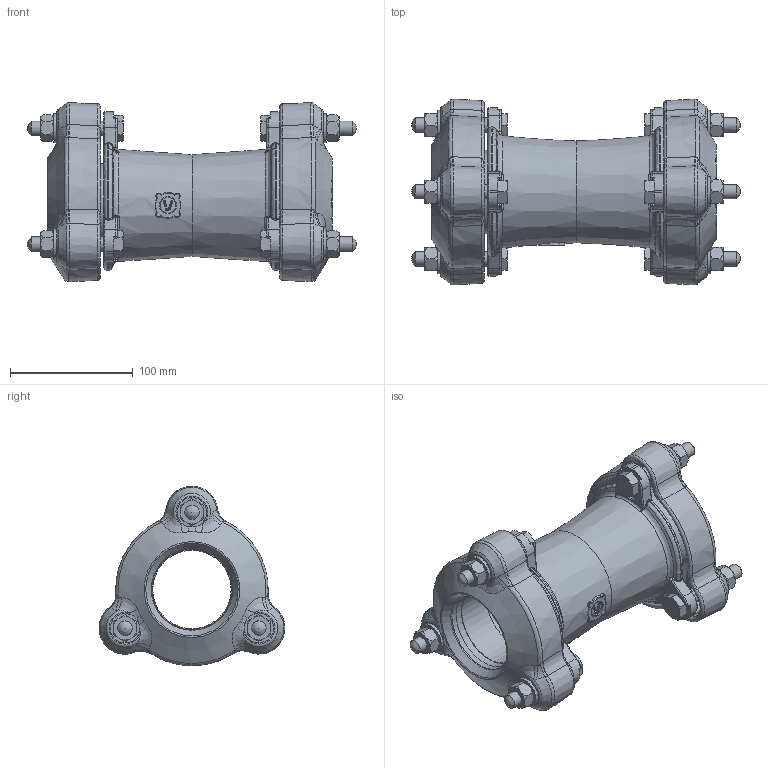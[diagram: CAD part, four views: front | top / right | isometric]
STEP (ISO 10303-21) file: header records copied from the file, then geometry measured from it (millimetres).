
FILE_DESCRIPTION((''),'2;1');
FILE_NAME('P:\Fastrack\54361_VIKING JOHNSON 3D\ULTRAGRIP\Component Parts\Components Built up\Coupling Assembly\40MM-UltraGrip-Coupling-Assembly.stp','2012-05-22T12:27:40',('dcole'),(''),'Autodesk Inventor 2008','Autodesk Inventor 2008','');
FILE_SCHEMA(('AUTOMOTIVE_DESIGN { 1 0 10303 214 1 1 1 1 }'));
Length unit declared in the file: millimetre
Products named in the file (1): 40MM-UltraGrip-Coupling-Assembly
Bounding box: 268 x 151.42 x 146.15 mm (x, y, z)
Volume: 741519.2 mm3; surface area: 263606.5 mm2
Topology: 1 solids, 1 shells, 1123 faces, 2995 edges, 1885 vertices
Faces by surface type: bspline 272, plane 271, cone 221, cylinder 196, torus 139, sphere 24
Full cylindrical faces by diameter (mm): 11.75 x6, 12 x6, 13 x1, 14.553 x6, 24 x6, 64 x2, 65 x4, 66 x4, 68 x4
Entity records: 54458 total; most frequent: CARTESIAN_POINT 28031, ORIENTED_EDGE 5632, DIRECTION 4711, EDGE_CURVE 2816, AXIS2_PLACEMENT_3D 2018, VERTEX_POINT 1813, EDGE_LOOP 1279, CIRCLE 1149
